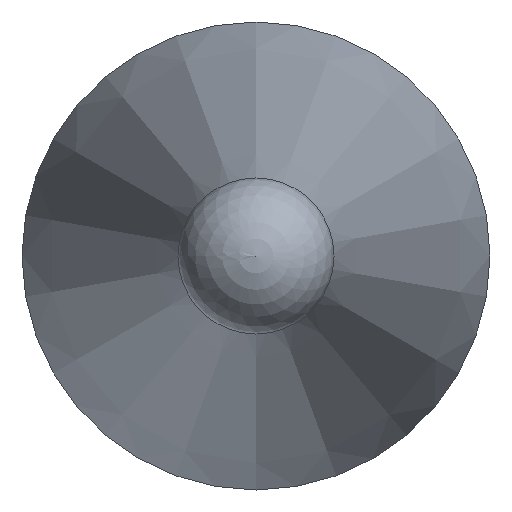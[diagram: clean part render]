
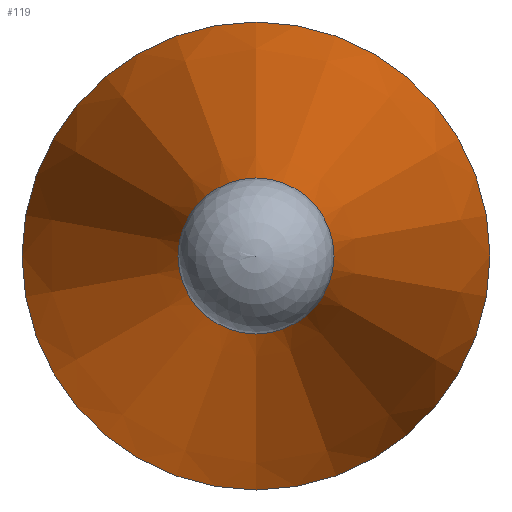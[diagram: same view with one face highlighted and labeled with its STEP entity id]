
A CAD part, left-side view. The second image highlights one B-rep face of the part: STEP entity #119.
In plain terms, the highlighted conical face has half-angle 11 degrees and reference radius 3 mm.
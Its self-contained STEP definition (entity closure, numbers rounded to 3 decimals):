
#93=CONICAL_SURFACE('',#191,3.,11.);
#106=FACE_BOUND('',#137,.T.);
#107=FACE_BOUND('',#138,.T.);
#119=ADVANCED_FACE('',(#106,#107),#93,.T.);
#137=EDGE_LOOP('',(#151));
#138=EDGE_LOOP('',(#152));
#151=ORIENTED_EDGE('',*,*,#168,.F.);
#152=ORIENTED_EDGE('',*,*,#169,.T.);
#161=VERTEX_POINT('',#244);
#162=VERTEX_POINT('',#247);
#168=EDGE_CURVE('',#161,#161,#175,.T.);
#169=EDGE_CURVE('',#162,#162,#176,.T.);
#175=CIRCLE('',#188,0.95);
#176=CIRCLE('',#190,3.);
#188=AXIS2_PLACEMENT_3D('',#243,#215,#216);
#190=AXIS2_PLACEMENT_3D('',#246,#219,#220);
#191=AXIS2_PLACEMENT_3D('',#248,#221,#222);
#215=DIRECTION('',(-1.,0.,0.));
#216=DIRECTION('',(0.,0.,1.));
#219=DIRECTION('',(-1.,0.,0.));
#220=DIRECTION('',(0.,0.,1.));
#221=DIRECTION('',(1.,0.,0.));
#222=DIRECTION('',(0.,0.,-1.));
#243=CARTESIAN_POINT('',(7856.677,6110.222,0.));
#244=CARTESIAN_POINT('',(7856.677,6110.222,0.95));
#246=CARTESIAN_POINT('',(7867.223,6110.222,0.));
#247=CARTESIAN_POINT('',(7867.223,6110.222,3.));
#248=CARTESIAN_POINT('',(7867.223,6110.222,0.));
